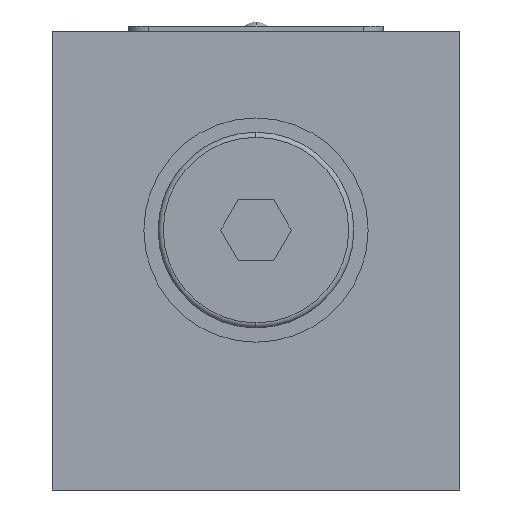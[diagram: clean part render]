
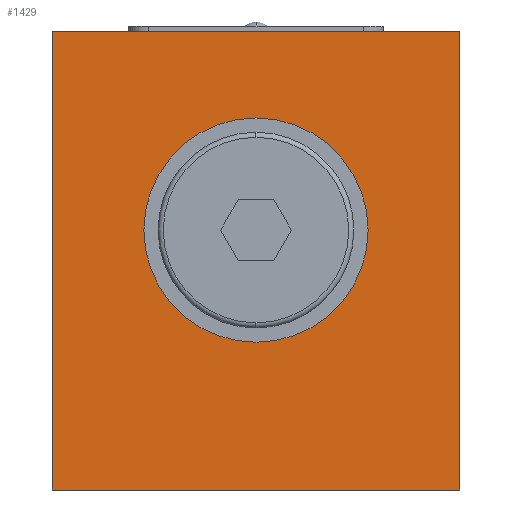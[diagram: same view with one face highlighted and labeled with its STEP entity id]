
A CAD part, left-side view. The second image highlights one B-rep face of the part: STEP entity #1429.
In plain terms, the highlighted planar face has unit normal (-1, 0, 0).
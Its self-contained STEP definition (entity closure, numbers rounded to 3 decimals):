
#9=DIRECTION('',(0.,1.,0.));
#10=VECTOR('',#9,40.);
#11=CARTESIAN_POINT('',(-85.,0.,0.));
#12=LINE('',#11,#10);
#143=DIRECTION('',(0.,1.,0.));
#144=VECTOR('',#143,40.);
#145=CARTESIAN_POINT('',(-85.,0.,-45.));
#146=LINE('',#145,#144);
#147=DIRECTION('',(0.,0.,1.));
#148=VECTOR('',#147,45.);
#149=CARTESIAN_POINT('',(-85.,40.,-45.));
#150=LINE('',#149,#148);
#151=CARTESIAN_POINT('',(-85.,20.,-19.5));
#152=DIRECTION('',(-1.,0.,0.));
#153=DIRECTION('',(0.,-1.,0.));
#154=AXIS2_PLACEMENT_3D('',#151,#152,#153);
#156=CARTESIAN_POINT('',(-85.,20.,-19.5));
#157=DIRECTION('',(-1.,0.,0.));
#158=DIRECTION('',(0.,1.,0.));
#159=AXIS2_PLACEMENT_3D('',#156,#157,#158);
#165=DIRECTION('',(0.,0.,1.));
#166=VECTOR('',#165,45.);
#167=CARTESIAN_POINT('',(-85.,0.,-45.));
#168=LINE('',#167,#166);
#1005=CARTESIAN_POINT('',(-85.,0.,0.));
#1006=VERTEX_POINT('',#1005);
#1007=CARTESIAN_POINT('',(-85.,40.,0.));
#1008=VERTEX_POINT('',#1007);
#1033=CARTESIAN_POINT('',(-85.,40.,-45.));
#1034=VERTEX_POINT('',#1033);
#1067=CARTESIAN_POINT('',(-85.,0.,-45.));
#1068=VERTEX_POINT('',#1067);
#1069=CARTESIAN_POINT('',(-85.,9.,-19.5));
#1070=CARTESIAN_POINT('',(-85.,31.,-19.5));
#1071=VERTEX_POINT('',#1069);
#1072=VERTEX_POINT('',#1070);
#1410=CARTESIAN_POINT('',(-85.,40.,0.));
#1411=DIRECTION('',(-1.,0.,0.));
#1412=DIRECTION('',(0.,-1.,0.));
#1413=AXIS2_PLACEMENT_3D('',#1410,#1411,#1412);
#1414=PLANE('',#1413);
#1415=ORIENTED_EDGE('',*,*,#1302,.F.);
#1417=ORIENTED_EDGE('',*,*,#1416,.F.);
#1419=ORIENTED_EDGE('',*,*,#1418,.T.);
#1420=ORIENTED_EDGE('',*,*,#1354,.T.);
#1421=EDGE_LOOP('',(#1415,#1417,#1419,#1420));
#1422=FACE_OUTER_BOUND('',#1421,.F.);
#1424=ORIENTED_EDGE('',*,*,#1423,.T.);
#1426=ORIENTED_EDGE('',*,*,#1425,.T.);
#1427=EDGE_LOOP('',(#1424,#1426));
#1428=FACE_BOUND('',#1427,.F.);
#155=CIRCLE('',#154,11.);
#160=CIRCLE('',#159,11.);
#1302=EDGE_CURVE('',#1006,#1008,#12,.T.);
#1354=EDGE_CURVE('',#1034,#1008,#150,.T.);
#1416=EDGE_CURVE('',#1068,#1006,#168,.T.);
#1418=EDGE_CURVE('',#1068,#1034,#146,.T.);
#1423=EDGE_CURVE('',#1071,#1072,#155,.T.);
#1425=EDGE_CURVE('',#1072,#1071,#160,.T.);
#1429=ADVANCED_FACE('',(#1422,#1428),#1414,.T.);
